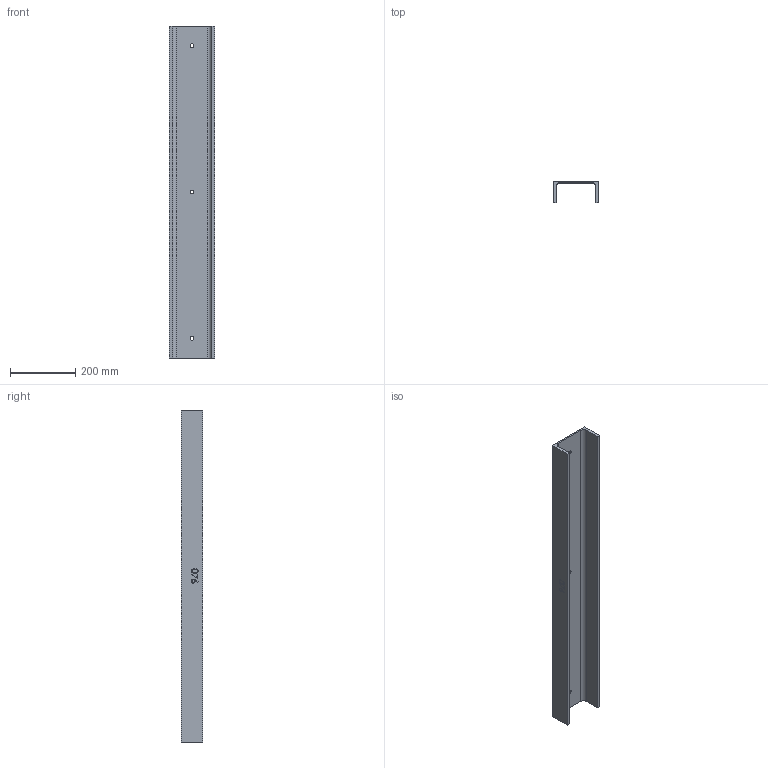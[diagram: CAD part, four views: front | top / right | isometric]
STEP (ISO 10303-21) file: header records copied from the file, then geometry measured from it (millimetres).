
FILE_DESCRIPTION (( 'STEP AP214' ), '1' );
FILE_NAME ('CCJ029-REP.076 - SUPPORT DEFENSE 1M.STEP', '2025-04-16T13:14:25', ( '' ), ( '' ), 'SwSTEP 2.0', 'SolidWorks 2021', '' );
FILE_SCHEMA (( 'AUTOMOTIVE_DESIGN' ));
Length unit declared in the file: millimetre
Products named in the file (1): CCJ029-REP.076 - SUPPORT DEFENSE 1M
Bounding box: 140 x 65 x 1020 mm (x, y, z)
Volume: 1876921 mm3; surface area: 533689 mm2
Topology: 1 solids, 1 shells, 50 faces, 129 edges, 86 vertices
Faces by surface type: plane 24, bspline 18, cylinder 8
Entity records: 2767 total; most frequent: CARTESIAN_POINT 1604, ORIENTED_EDGE 258, DIRECTION 175, EDGE_CURVE 129, VERTEX_POINT 86, VECTOR 77, LINE 77, EDGE_LOOP 61
